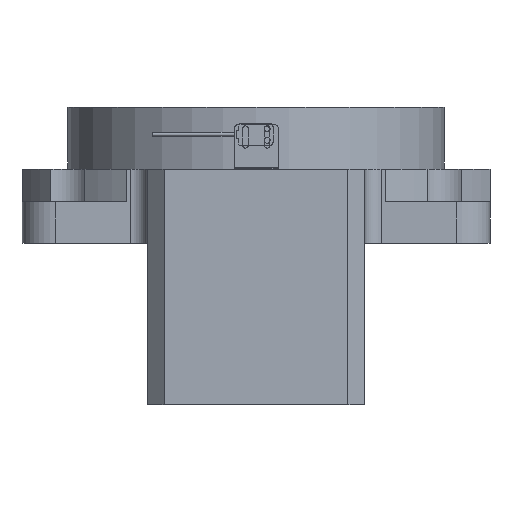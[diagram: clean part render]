
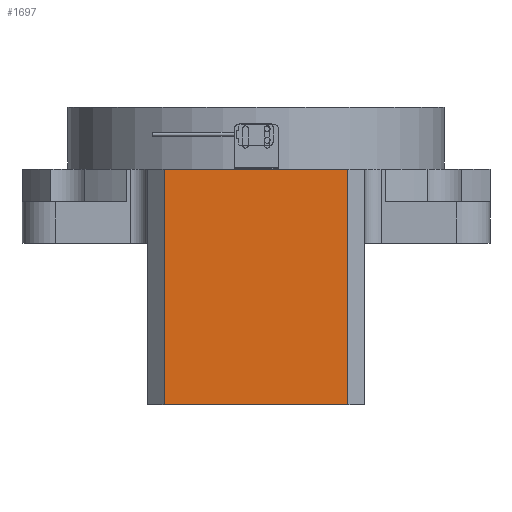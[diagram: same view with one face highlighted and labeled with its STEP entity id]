
A CAD part, front view. The second image highlights one B-rep face of the part: STEP entity #1697.
In plain terms, the highlighted planar face has unit normal (0, -1, 0).
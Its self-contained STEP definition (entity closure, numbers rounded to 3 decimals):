
#143 = VECTOR ( 'NONE', #1691, 1000. ) ;
#221 = EDGE_CURVE ( 'NONE', #4213, #1206, #8119, .T. ) ;
#442 = DIRECTION ( 'NONE',  ( 0., 1., 0. ) ) ;
#1114 = DIRECTION ( 'NONE',  ( 1., 0., 0. ) ) ;
#1206 = VERTEX_POINT ( 'NONE', #2370 ) ;
#1558 = DIRECTION ( 'NONE',  ( 0., 0., -1. ) ) ;
#1611 = VECTOR ( 'NONE', #6550, 1000. ) ;
#1691 = DIRECTION ( 'NONE',  ( 1., 0., 0. ) ) ;
#1697 = ADVANCED_FACE ( 'NONE', ( #9122 ), #9213, .F. ) ;
#2084 = CARTESIAN_POINT ( 'NONE',  ( -67.992, -177.645, 80.75 ) ) ;
#2233 = ORIENTED_EDGE ( 'NONE', *, *, #5152, .F. ) ;
#2370 = CARTESIAN_POINT ( 'NONE',  ( -67.992, -177.645, -97.25 ) ) ;
#2587 = VERTEX_POINT ( 'NONE', #7402 ) ;
#2663 = EDGE_CURVE ( 'NONE', #4213, #2587, #5424, .T. ) ;
#2949 = DIRECTION ( 'NONE',  ( -1., 0., 0. ) ) ;
#3195 = ORIENTED_EDGE ( 'NONE', *, *, #221, .T. ) ;
#3817 = LINE ( 'NONE', #6742, #9124 ) ;
#4213 = VERTEX_POINT ( 'NONE', #8195 ) ;
#4435 = CARTESIAN_POINT ( 'NONE',  ( 42.008, -177.645, -97.25 ) ) ;
#4851 = CARTESIAN_POINT ( 'NONE',  ( -67.992, -177.645, 80.75 ) ) ;
#4992 = VECTOR ( 'NONE', #2949, 1000. ) ;
#5100 = EDGE_CURVE ( 'NONE', #2587, #5585, #3817, .T. ) ;
#5152 = EDGE_CURVE ( 'NONE', #5585, #1206, #7419, .T. ) ;
#5313 = AXIS2_PLACEMENT_3D ( 'NONE', #4851, #442, #1114 ) ;
#5424 = LINE ( 'NONE', #8256, #143 ) ;
#5573 = ORIENTED_EDGE ( 'NONE', *, *, #2663, .F. ) ;
#5585 = VERTEX_POINT ( 'NONE', #6774 ) ;
#6022 = ORIENTED_EDGE ( 'NONE', *, *, #5100, .F. ) ;
#6550 = DIRECTION ( 'NONE',  ( 0., 0., -1. ) ) ;
#6742 = CARTESIAN_POINT ( 'NONE',  ( 42.008, -177.645, 80.75 ) ) ;
#6774 = CARTESIAN_POINT ( 'NONE',  ( 42.008, -177.645, -97.25 ) ) ;
#7402 = CARTESIAN_POINT ( 'NONE',  ( 42.008, -177.645, 43.75 ) ) ;
#7419 = LINE ( 'NONE', #4435, #4992 ) ;
#7844 = EDGE_LOOP ( 'NONE', ( #5573, #3195, #2233, #6022 ) ) ;
#8119 = LINE ( 'NONE', #2084, #1611 ) ;
#8195 = CARTESIAN_POINT ( 'NONE',  ( -67.992, -177.645, 43.75 ) ) ;
#8256 = CARTESIAN_POINT ( 'NONE',  ( -67.992, -177.645, 43.75 ) ) ;
#9122 = FACE_OUTER_BOUND ( 'NONE', #7844, .T. ) ;
#9124 = VECTOR ( 'NONE', #1558, 1000. ) ;
#9213 = PLANE ( 'NONE',  #5313 ) ;
